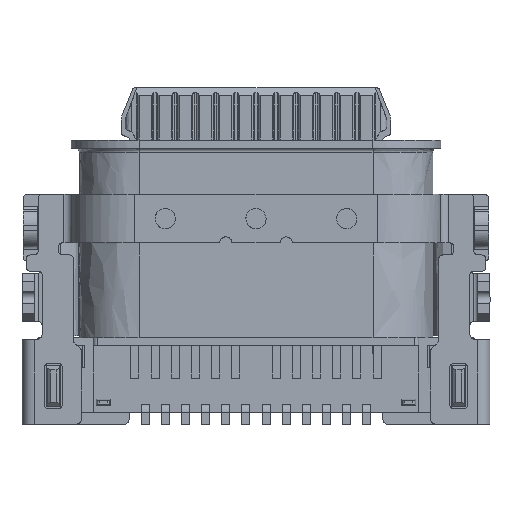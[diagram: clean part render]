
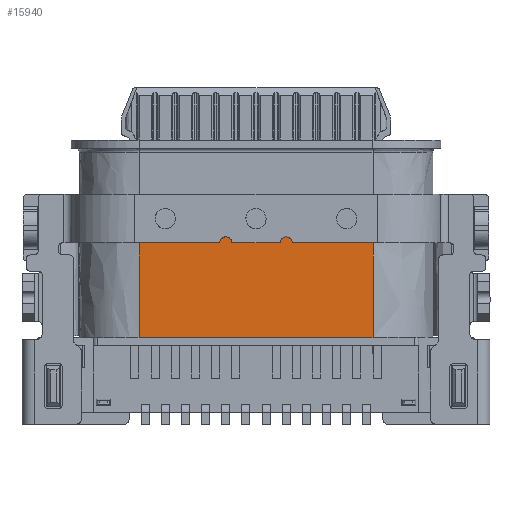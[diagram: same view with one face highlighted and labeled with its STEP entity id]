
A CAD part, front view. The second image highlights one B-rep face of the part: STEP entity #15940.
In plain terms, the highlighted free-form (B-spline) face has degree [1, 1] with [2, 2] control points.
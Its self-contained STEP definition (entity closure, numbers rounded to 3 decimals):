
#1227 = ORIENTED_EDGE ( 'NONE', *, *, #8403, .T. ) ;
#1758 = CARTESIAN_POINT ( 'NONE',  ( -3.016, -1.48, 0.751 ) ) ;
#2258 = B_SPLINE_CURVE_WITH_KNOTS ( 'NONE', 1,
 ( #22329, #34802 ),
 .UNSPECIFIED., .F., .F.,
 ( 2, 2 ),
 ( 0., 1. ),
 .UNSPECIFIED. ) ;
#2344 = ORIENTED_EDGE ( 'NONE', *, *, #18323, .F. ) ;
#3253 = B_SPLINE_CURVE_WITH_KNOTS ( 'NONE', 1,
 ( #30053, #30258 ),
 .UNSPECIFIED., .F., .F.,
 ( 2, 2 ),
 ( 0., 1. ),
 .UNSPECIFIED. ) ;
#3975 = CARTESIAN_POINT ( 'NONE',  ( -0.9, -1.48, 0.55 ) ) ;
#5154 = EDGE_CURVE ( 'NONE', #5291, #9532, #38252, .T. ) ;
#5291 = VERTEX_POINT ( 'NONE', #18035 ) ;
#7054 = CARTESIAN_POINT ( 'NONE',  ( 2.9, -1.48, -1.8 ) ) ;
#7101 = EDGE_CURVE ( 'NONE', #24217, #13818, #2258, .T. ) ;
#7427 = ORIENTED_EDGE ( 'NONE', *, *, #32691, .T. ) ;
#7893 = CARTESIAN_POINT ( 'NONE',  ( 3.016, -1.48, -1.85 ) ) ;
#8048 = CARTESIAN_POINT ( 'NONE',  ( -0.6, -1.48, 0.85 ) ) ;
#8403 = EDGE_CURVE ( 'NONE', #24818, #36436, #17815, .T. ) ;
#8618 = CARTESIAN_POINT ( 'NONE',  ( -0.6, -1.48, 0.55 ) ) ;
#8985 =( BOUNDED_CURVE ( )  B_SPLINE_CURVE ( 3, ( #17782, #24107, #8048, #21143 ),
 .UNSPECIFIED., .F., .F. ) 
 B_SPLINE_CURVE_WITH_KNOTS ( ( 4, 4 ),
 ( 0., 3.142 ),
 .UNSPECIFIED. ) 
 CURVE ( )  GEOMETRIC_REPRESENTATION_ITEM ( )  RATIONAL_B_SPLINE_CURVE ( ( 1., 0.333, 0.333, 1. ) ) 
 REPRESENTATION_ITEM ( '' )  );
#9532 = VERTEX_POINT ( 'NONE', #10713 ) ;
#10290 =( BOUNDED_CURVE ( )  B_SPLINE_CURVE ( 3, ( #38531, #26249, #23738, #39602 ),
 .UNSPECIFIED., .F., .F. ) 
 B_SPLINE_CURVE_WITH_KNOTS ( ( 4, 4 ),
 ( 0., 3.142 ),
 .UNSPECIFIED. ) 
 CURVE ( )  GEOMETRIC_REPRESENTATION_ITEM ( )  RATIONAL_B_SPLINE_CURVE ( ( 1., 0.333, 0.333, 1. ) ) 
 REPRESENTATION_ITEM ( '' )  );
#10713 = CARTESIAN_POINT ( 'NONE',  ( 2.9, -1.48, 0.55 ) ) ;
#11129 = B_SPLINE_CURVE_WITH_KNOTS ( 'NONE', 1,
 ( #12601, #28838 ),
 .UNSPECIFIED., .F., .F.,
 ( 2, 2 ),
 ( 0., 1. ),
 .UNSPECIFIED. ) ;
#11801 = ORIENTED_EDGE ( 'NONE', *, *, #33318, .F. ) ;
#12601 = CARTESIAN_POINT ( 'NONE',  ( 2.9, -1.48, 0.55 ) ) ;
#13818 = VERTEX_POINT ( 'NONE', #24149 ) ;
#15283 = VERTEX_POINT ( 'NONE', #3975 ) ;
#15753 = CARTESIAN_POINT ( 'NONE',  ( 0.6, -1.48, 0.55 ) ) ;
#15940 = ADVANCED_FACE ( 'NONE', ( #33445 ), #18614, .F. ) ;
#16739 = CARTESIAN_POINT ( 'NONE',  ( 2.9, -1.48, -1.8 ) ) ;
#17782 = CARTESIAN_POINT ( 'NONE',  ( -0.9, -1.48, 0.55 ) ) ;
#17815 = B_SPLINE_CURVE_WITH_KNOTS ( 'NONE', 1,
 ( #15753, #28403 ),
 .UNSPECIFIED., .F., .F.,
 ( 2, 2 ),
 ( 0., 1. ),
 .UNSPECIFIED. ) ;
#17818 = CARTESIAN_POINT ( 'NONE',  ( 0.9, -1.48, 0.55 ) ) ;
#18035 = CARTESIAN_POINT ( 'NONE',  ( 2.9, -1.48, -1.8 ) ) ;
#18323 = EDGE_CURVE ( 'NONE', #5291, #13818, #22193, .T. ) ;
#18614 = B_SPLINE_SURFACE_WITH_KNOTS ( 'NONE', 1, 1, ( 
 ( #1758, #36841 ),
 ( #24152, #7893 ) ),
 .UNSPECIFIED., .F., .F., .F.,
 ( 2, 2 ),
 ( 2, 2 ),
 ( -3.016, 3.016 ),
 ( -1.3, 1.3 ),
 .UNSPECIFIED. ) ;
#19440 = ORIENTED_EDGE ( 'NONE', *, *, #30492, .T. ) ;
#20091 = ORIENTED_EDGE ( 'NONE', *, *, #5154, .T. ) ;
#21143 = CARTESIAN_POINT ( 'NONE',  ( -0.6, -1.48, 0.55 ) ) ;
#22193 = B_SPLINE_CURVE_WITH_KNOTS ( 'NONE', 1,
 ( #16739, #32976 ),
 .UNSPECIFIED., .F., .F.,
 ( 2, 2 ),
 ( 0., 1. ),
 .UNSPECIFIED. ) ;
#22329 = CARTESIAN_POINT ( 'NONE',  ( -2.9, -1.48, 0.55 ) ) ;
#23738 = CARTESIAN_POINT ( 'NONE',  ( 0.9, -1.48, 0.85 ) ) ;
#24107 = CARTESIAN_POINT ( 'NONE',  ( -0.9, -1.48, 0.85 ) ) ;
#24149 = CARTESIAN_POINT ( 'NONE',  ( -2.9, -1.48, -1.8 ) ) ;
#24152 = CARTESIAN_POINT ( 'NONE',  ( 3.016, -1.48, 0.751 ) ) ;
#24217 = VERTEX_POINT ( 'NONE', #30733 ) ;
#24818 = VERTEX_POINT ( 'NONE', #35946 ) ;
#26249 = CARTESIAN_POINT ( 'NONE',  ( 0.6, -1.48, 0.85 ) ) ;
#28403 = CARTESIAN_POINT ( 'NONE',  ( -0.6, -1.48, 0.55 ) ) ;
#28838 = CARTESIAN_POINT ( 'NONE',  ( 0.9, -1.48, 0.55 ) ) ;
#29245 = VERTEX_POINT ( 'NONE', #17818 ) ;
#30053 = CARTESIAN_POINT ( 'NONE',  ( -0.9, -1.48, 0.55 ) ) ;
#30258 = CARTESIAN_POINT ( 'NONE',  ( -2.9, -1.48, 0.55 ) ) ;
#30492 = EDGE_CURVE ( 'NONE', #15283, #24217, #3253, .T. ) ;
#30733 = CARTESIAN_POINT ( 'NONE',  ( -2.9, -1.48, 0.55 ) ) ;
#32285 = ORIENTED_EDGE ( 'NONE', *, *, #7101, .T. ) ;
#32468 = EDGE_LOOP ( 'NONE', ( #2344, #20091, #7427, #33311, #1227, #11801, #19440, #32285 ) ) ;
#32691 = EDGE_CURVE ( 'NONE', #9532, #29245, #11129, .T. ) ;
#32976 = CARTESIAN_POINT ( 'NONE',  ( -2.9, -1.48, -1.8 ) ) ;
#33010 = CARTESIAN_POINT ( 'NONE',  ( 2.9, -1.48, 0.55 ) ) ;
#33311 = ORIENTED_EDGE ( 'NONE', *, *, #38858, .F. ) ;
#33318 = EDGE_CURVE ( 'NONE', #15283, #36436, #8985, .T. ) ;
#33445 = FACE_OUTER_BOUND ( 'NONE', #32468, .T. ) ;
#34802 = CARTESIAN_POINT ( 'NONE',  ( -2.9, -1.48, -1.8 ) ) ;
#35946 = CARTESIAN_POINT ( 'NONE',  ( 0.6, -1.48, 0.55 ) ) ;
#36436 = VERTEX_POINT ( 'NONE', #8618 ) ;
#36841 = CARTESIAN_POINT ( 'NONE',  ( -3.016, -1.48, -1.85 ) ) ;
#38252 = B_SPLINE_CURVE_WITH_KNOTS ( 'NONE', 1,
 ( #7054, #33010 ),
 .UNSPECIFIED., .F., .F.,
 ( 2, 2 ),
 ( 0., 1. ),
 .UNSPECIFIED. ) ;
#38531 = CARTESIAN_POINT ( 'NONE',  ( 0.6, -1.48, 0.55 ) ) ;
#38858 = EDGE_CURVE ( 'NONE', #24818, #29245, #10290, .T. ) ;
#39602 = CARTESIAN_POINT ( 'NONE',  ( 0.9, -1.48, 0.55 ) ) ;
